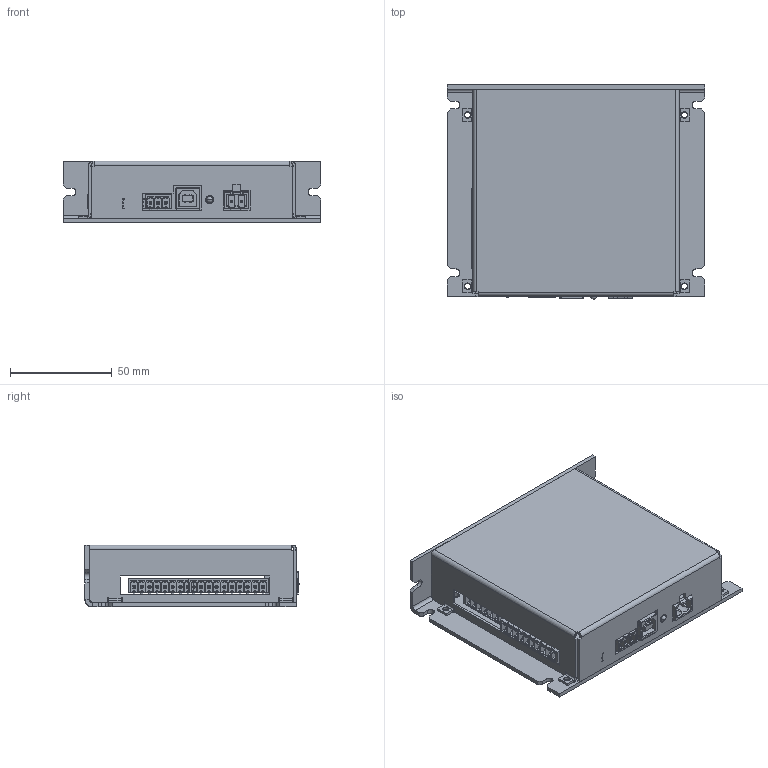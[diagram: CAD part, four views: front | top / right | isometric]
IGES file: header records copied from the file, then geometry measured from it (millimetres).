
Start section: SolidWorks IGES file using analytic representation for surfaces
Global section: file name: C:\Users\Engineering\Documents\Drawing\CAD\Arcus Enclosure\PMX-Assembly\PMX-4CX\PMX-4CX-SA-external.IGS; native system: SolidWorks 2011; preprocessor: SolidWorks 2011; author: Engineering; date: 110801.100612; units: inch
Bounding box: 127 x 105.41 x 30.48 mm (x, y, z)
Surface area: 86040.4 mm2 (no closed solid volume)
Topology: 0 solids, 0 shells, 3583 faces, 25046 edges, 24967 vertices
Faces by surface type: bspline 2929, revolution 654
